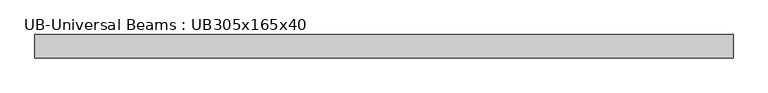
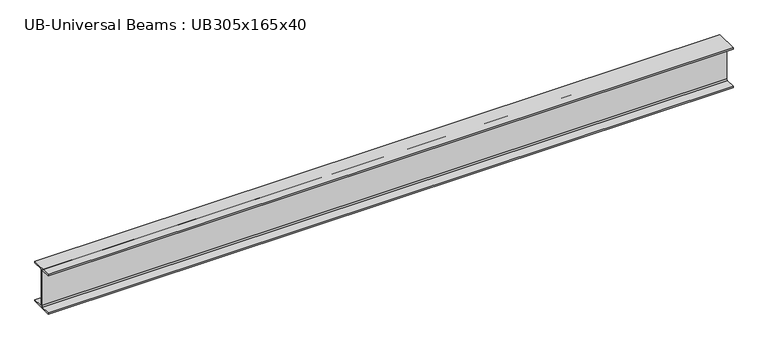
"""IFC4 building model written with IfcOpenShell, lengths in millimetres: beam geometry, UB-Universal Beams : UB305x165x40."""

from ifc_helpers import new_model, si_unit, point, frame, frame_2d, origin, place, context, project, spatial, polyline, circle_curve, trimmed, segment, composite_curve, outline, extrude, source, transform, mapped, element, save


def ub_universal_beams_ub305x165x40_8f1c350d(model_context):
    return source(origin(), model_context, "Body", "SweptSolid", [
        extrude(outline(composite_curve([segment(polyline([(82.5, -141.5), (82.5, -151.7), (-82.5, -151.7), (-82.5, -141.5), (-11.9, -141.5)]), True, "CONTINUOUS"), segment(trimmed(circle_curve(frame_2d((-11.9, -132.6)), 8.9), [point((-11.9, -141.5))], [point((-3.0, -132.6))], True, "CARTESIAN"), True, "CONTINUOUS"), segment(polyline([(-3.0, -132.6), (-3.0, 132.6)]), True, "CONTINUOUS"), segment(trimmed(circle_curve(frame_2d((-11.9, 132.6)), 8.9), [point((-3.0, 132.6))], [point((-11.9, 141.5))], True, "CARTESIAN"), True, "CONTINUOUS"), segment(polyline([(-11.9, 141.5), (-82.5, 141.5), (-82.5, 151.7), (82.5, 151.7), (82.5, 141.5), (11.9, 141.5)]), True, "CONTINUOUS"), segment(trimmed(circle_curve(frame_2d((11.9, 132.6)), 8.9), [point((11.9, 141.5))], [point((3.0, 132.6))], True, "CARTESIAN"), True, "CONTINUOUS"), segment(polyline([(3.0, 132.6), (3.0, -132.6)]), True, "CONTINUOUS"), segment(trimmed(circle_curve(frame_2d((11.9, -132.6)), 8.9), [point((3.0, -132.6))], [point((11.9, -141.5))], True, "CARTESIAN"), True, "CONTINUOUS"), segment(polyline([(11.9, -141.5), (82.5, -141.5)]), True, "CONTINUOUS")], self_intersect=False)), frame((-2462.35, 0.0, 0.0), z_axis=(1.0, 0.0, 0.0), x_axis=(0.0, 1.0, 0.0)), (0.0, 0.0, 1.0), 4955.3),
    ])


if __name__ == "__main__":
    model = new_model("IFC4")
    model_context = context("Model", 3, world=origin())
    ifc_project = project(units=[si_unit("LENGTHUNIT", "METRE", prefix="MILLI")], contexts=[model_context])
    site = spatial("IfcSite", under=ifc_project)
    building = spatial("IfcBuilding", under=site)
    placement = place(None, origin())
    ub_universal_beams_ub305x165x40_shape = ub_universal_beams_ub305x165x40_8f1c350d(model_context)
    element("IfcBeam", 1, ObjectType="UB-Universal Beams : UB305x165x40", at=placement, inside=building, context=model_context, shape_type="MappedRepresentation", body=[
        mapped(ub_universal_beams_ub305x165x40_shape, transform((0.0, 0.0, 0.0), x_axis=(1.0, 0.0, 0.0), y_axis=(0.0, 1.0, 0.0), z_axis=(0.0, 0.0, 1.0))),
    ])
    save(model, "model.ifc")
